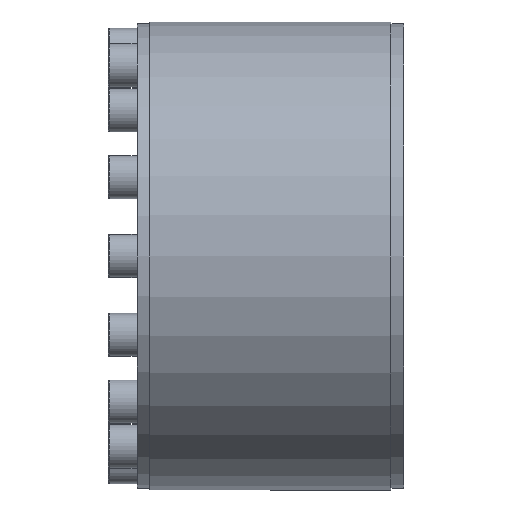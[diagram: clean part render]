
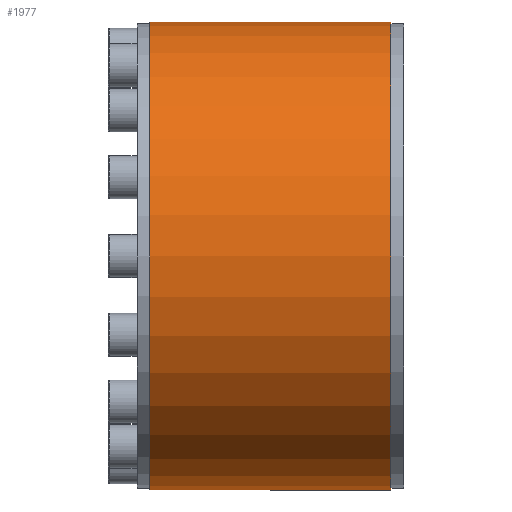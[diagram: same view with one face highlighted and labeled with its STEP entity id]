
A CAD part, left-side view. The second image highlights one B-rep face of the part: STEP entity #1977.
In plain terms, the highlighted cylindrical face has radius 130 mm (diameter 260 mm), a partial arc.
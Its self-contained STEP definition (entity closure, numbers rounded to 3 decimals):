
#66 = DIRECTION ( 'NONE',  ( 0., -1., 0. ) ) ;
#165 = DIRECTION ( 'NONE',  ( 0., 0., -1. ) ) ;
#244 = DIRECTION ( 'NONE',  ( 0., 0., -1. ) ) ;
#287 = VERTEX_POINT ( 'NONE', #795 ) ;
#712 = CARTESIAN_POINT ( 'NONE',  ( 0., -67., -130. ) ) ;
#795 = CARTESIAN_POINT ( 'NONE',  ( 0., 67., 130. ) ) ;
#930 = ORIENTED_EDGE ( 'NONE', *, *, #3013, .T. ) ;
#1003 = CYLINDRICAL_SURFACE ( 'NONE', #4211, 130. ) ;
#1031 = LINE ( 'NONE', #1870, #2373 ) ;
#1214 = CARTESIAN_POINT ( 'NONE',  ( 0., 67., 0. ) ) ;
#1241 = LINE ( 'NONE', #2933, #4363 ) ;
#1321 = CIRCLE ( 'NONE', #2183, 130. ) ;
#1779 = EDGE_CURVE ( 'NONE', #287, #4393, #3787, .T. ) ;
#1870 = CARTESIAN_POINT ( 'NONE',  ( 0., 0., -130. ) ) ;
#1921 = EDGE_LOOP ( 'NONE', ( #4347, #3623, #930, #2855 ) ) ;
#1968 = DIRECTION ( 'NONE',  ( 0., -1., 0. ) ) ;
#1977 = ADVANCED_FACE ( 'NONE', ( #2819 ), #1003, .T. ) ;
#2167 = VERTEX_POINT ( 'NONE', #2914 ) ;
#2183 = AXIS2_PLACEMENT_3D ( 'NONE', #4139, #1968, #165 ) ;
#2373 = VECTOR ( 'NONE', #66, 1000. ) ;
#2376 = DIRECTION ( 'NONE',  ( 0., 0., -1. ) ) ;
#2432 = AXIS2_PLACEMENT_3D ( 'NONE', #1214, #2956, #244 ) ;
#2819 = FACE_OUTER_BOUND ( 'NONE', #1921, .T. ) ;
#2855 = ORIENTED_EDGE ( 'NONE', *, *, #3118, .F. ) ;
#2914 = CARTESIAN_POINT ( 'NONE',  ( 0., -67., 130. ) ) ;
#2933 = CARTESIAN_POINT ( 'NONE',  ( 0., 0., 130. ) ) ;
#2956 = DIRECTION ( 'NONE',  ( 0., -1., 0. ) ) ;
#3013 = EDGE_CURVE ( 'NONE', #4393, #5559, #1031, .T. ) ;
#3118 = EDGE_CURVE ( 'NONE', #2167, #5559, #1321, .T. ) ;
#3623 = ORIENTED_EDGE ( 'NONE', *, *, #1779, .T. ) ;
#3787 = CIRCLE ( 'NONE', #2432, 130. ) ;
#3858 = EDGE_CURVE ( 'NONE', #287, #2167, #1241, .T. ) ;
#4139 = CARTESIAN_POINT ( 'NONE',  ( 0., -67., 0. ) ) ;
#4211 = AXIS2_PLACEMENT_3D ( 'NONE', #5091, #4599, #2376 ) ;
#4347 = ORIENTED_EDGE ( 'NONE', *, *, #3858, .F. ) ;
#4363 = VECTOR ( 'NONE', #4775, 1000. ) ;
#4393 = VERTEX_POINT ( 'NONE', #5269 ) ;
#4599 = DIRECTION ( 'NONE',  ( 0., -1., 0. ) ) ;
#4775 = DIRECTION ( 'NONE',  ( 0., -1., 0. ) ) ;
#5091 = CARTESIAN_POINT ( 'NONE',  ( 0., 0., 0. ) ) ;
#5269 = CARTESIAN_POINT ( 'NONE',  ( 0., 67., -130. ) ) ;
#5559 = VERTEX_POINT ( 'NONE', #712 ) ;
